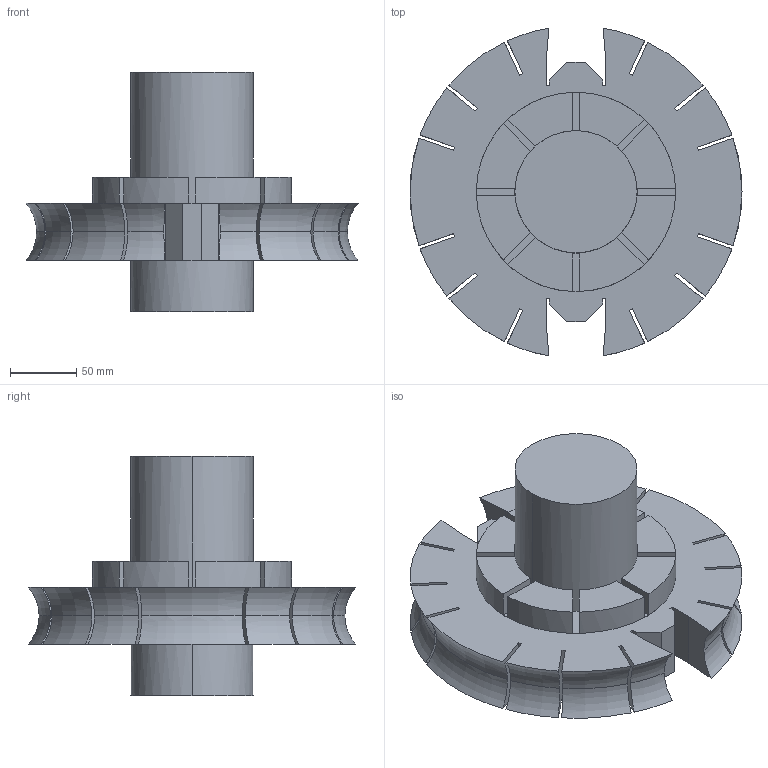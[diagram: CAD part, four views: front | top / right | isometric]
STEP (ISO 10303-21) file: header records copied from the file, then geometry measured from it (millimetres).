
FILE_DESCRIPTION(('STEP AP214'),'1');
FILE_NAME('C:/Users/mashimo/Documents/次世代エンジン/ボア６ｃｍ/TurboCAD/3D/tmp0.STEP','2025-07-11T09:16:13',(' '),(' '),'Spatial InterOp 3D',' ',' ');
FILE_SCHEMA(('automotive_design'));
Length unit declared in the file: millimetre
Products named in the file (1): 1
Bounding box: 249.93 x 246.55 x 180 mm (x, y, z)
Volume: 2901761.1 mm3; surface area: 209407.5 mm2
Topology: 1 solids, 1 shells, 137 faces, 402 edges, 268 vertices
Faces by surface type: plane 101, torus 28, cylinder 6, revolution 2
Entity records: 7498 total; most frequent: CARTESIAN_POINT 2882, ORIENTED_EDGE 804, DIRECTION 646, EDGE_CURVE 402, VERTEX_POINT 268, AXIS2_PLACEMENT_3D 228, LINE 188, VECTOR 188
